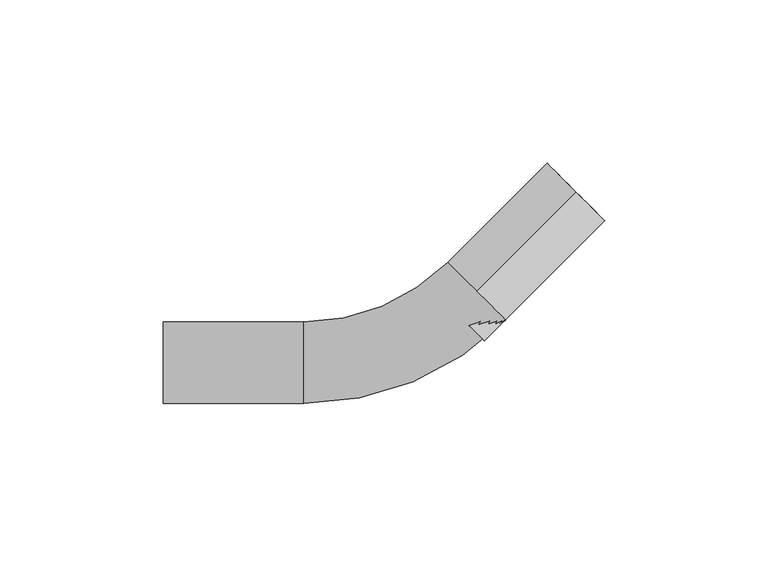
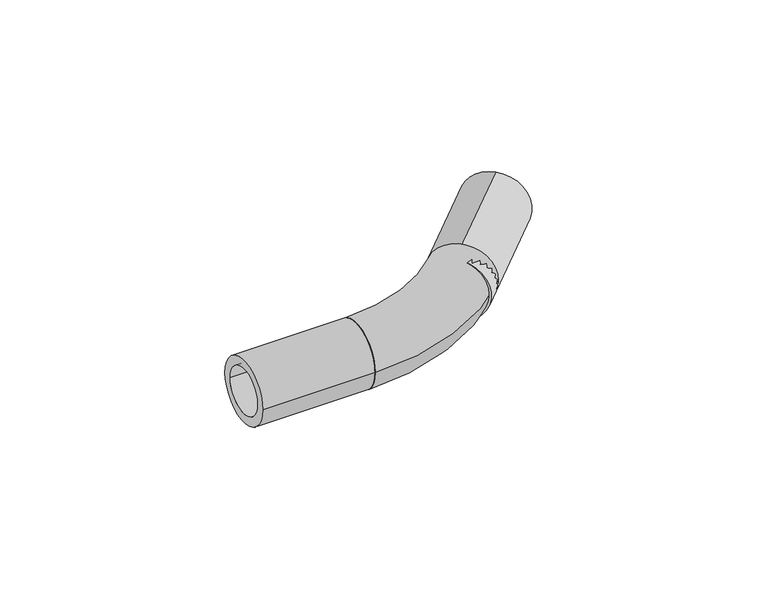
"""IFC4 building model written with IfcOpenShell, lengths in millimetres: pipe fitting geometry, REHAU_RAUTITAN_Pipe bend with former : REHAU_RAUTITAN_Pipe bend with former."""

from ifc_helpers import new_model, si_unit, point, frame, frame_2d, origin, origin_2d, place, context, project, spatial, circle_curve, ellipse_curve, trimmed, segment, composite_curve, outline, extrude, source, transform, mapped, element, save
from ifc_brep_helpers import plane_surface, revolved_surface, advanced_brep


def pipe_fitting_b303c04d(model_context):
    return source(origin(), model_context, "Body", "SolidModel", [
        advanced_brep(
        [(-31.0, -12.5, 0.0), (-31.0, 12.5, 0.0), (-31.0, -9.0, 0.0), (-31.0, 9.0, 0.0), (30.759145, 13.0814755, 0.0), (13.0814755, 30.759145, 0.0), (28.2842712, 15.5563492, 0.0), (15.5563492, 28.2842712, 0.0)],
        [
            (0, 1, circle_curve(frame((-31.0, 0.0, 0.0), z_axis=(-1.0, 0.0, 0.0), x_axis=(0.0, 1.0, 0.0)), 12.5)),
            (1, 0, circle_curve(frame((-31.0, 0.0, 0.0), z_axis=(-1.0, 0.0, 0.0), x_axis=(0.0, 1.0, 0.0)), 12.5)),
            (2, 3, circle_curve(frame((-31.0, 0.0, 0.0), z_axis=(1.0, 0.0, 0.0), x_axis=(0.0, 1.0, 0.0)), 9.0)),
            (3, 2, circle_curve(frame((-31.0, 0.0, 0.0), z_axis=(1.0, 0.0, 0.0), x_axis=(0.0, 1.0, 0.0)), 9.0)),
            (4, 5, circle_curve(frame((21.9203102, 21.9203102, 0.0), z_axis=(0.7071067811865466, 0.7071067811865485, 0.0), x_axis=(-0.7071067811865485, 0.7071067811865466, 0.0)), 12.5)),
            (5, 4, circle_curve(frame((21.9203102, 21.9203102, 0.0), z_axis=(0.7071067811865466, 0.7071067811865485, 0.0), x_axis=(-0.7071067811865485, 0.7071067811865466, 0.0)), 12.5)),
            (6, 7, circle_curve(frame((21.9203102, 21.9203102, 0.0), z_axis=(-0.7071067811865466, -0.7071067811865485, 0.0), x_axis=(-0.7071067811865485, 0.7071067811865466, 0.0)), 9.0)),
            (7, 6, circle_curve(frame((21.9203102, 21.9203102, 0.0), z_axis=(-0.7071067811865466, -0.7071067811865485, 0.0), x_axis=(-0.7071067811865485, 0.7071067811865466, 0.0)), 9.0)),
            (5, 1, circle_curve(frame((-31.0, 74.8406204, 0.0), z_axis=(0.0, 0.0, -1.0), x_axis=(0.0, -1.0, 0.0)), 62.3406204)),
            (0, 4, circle_curve(frame((-31.0, 74.8406204, 0.0), z_axis=(0.0, 0.0, 1.0), x_axis=(0.0, -1.0, 0.0)), 87.3406204)),
            (7, 3, circle_curve(frame((-31.0, 74.8406204, 0.0), z_axis=(0.0, 0.0, -1.0), x_axis=(0.0, -1.0, 0.0)), 65.8406204)),
            (2, 6, circle_curve(frame((-31.0, 74.8406204, 0.0), z_axis=(0.0, 0.0, 1.0), x_axis=(0.0, -1.0, 0.0)), 83.8406204)),
        ],
        [
            plane_surface(frame((-31.0, 0.0, 0.0), z_axis=(-1.0, 0.0, 0.0), x_axis=(0.0, 0.0, 1.0))),
            plane_surface(frame((21.9203102, 21.9203102, 0.0), z_axis=(0.7071067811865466, 0.7071067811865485, 0.0), x_axis=(0.0, 0.0, 1.0))),
            revolved_surface(trimmed(ellipse_curve(frame((-31.0, 0.0, 0.0), z_axis=(-1.0, 0.0, 0.0), x_axis=(0.0, 1.0, 0.0)), 12.5, 12.5), [point((-31.0, -12.5, 0.0))], [point((-31.0, 12.5, 0.0))], True, "CARTESIAN"), (-31.0, 74.8406204, 0.0), (0.0, 0.0, 1.0)),
            revolved_surface(trimmed(ellipse_curve(frame((-31.0, 0.0, 0.0), z_axis=(-1.0, 0.0, 0.0), x_axis=(0.0, 1.0, 0.0)), 12.5, 12.5), [point((-31.0, 12.5, 0.0))], [point((-31.0, -12.5, 0.0))], True, "CARTESIAN"), (-31.0, 74.8406204, 0.0), (0.0, 0.0, 1.0)),
            revolved_surface(trimmed(ellipse_curve(frame((-31.0, 0.0, 0.0), z_axis=(1.0, 0.0, 0.0), x_axis=(0.0, 1.0, 0.0)), 9.0, 9.0), [point((-31.0, -9.0, 0.0))], [point((-31.0, 9.0, 0.0))], True, "CARTESIAN"), (-31.0, 74.8406204, 0.0), (0.0, 0.0, 1.0)),
            revolved_surface(trimmed(ellipse_curve(frame((-31.0, 0.0, 0.0), z_axis=(1.0, 0.0, 0.0), x_axis=(0.0, 1.0, 0.0)), 9.0, 9.0), [point((-31.0, 9.0, 0.0))], [point((-31.0, -9.0, 0.0))], True, "CARTESIAN"), (-31.0, 74.8406204, 0.0), (0.0, 0.0, 1.0)),
        ],
        [
            (0, [[1, 2], [3, 4]]),
            (1, [[5, 6], [7, 8]]),
            (2, [[9, -1, 10, -6]]),
            (3, [[-10, -2, -9, -5]]),
            (4, [[11, -3, 12, -8]]),
            (5, [[-12, -4, -11, -7]]),
        ],
    ),
        extrude(outline(composite_curve([segment(trimmed(circle_curve(origin_2d(), 12.5), [point((12.5, 0.0))], [point((-12.5, 0.0))], False, "CARTESIAN"), True, "CONTINUOUS"), segment(trimmed(circle_curve(origin_2d(), 12.5), [point((-12.5, 0.0))], [point((12.5, 0.0))], False, "CARTESIAN"), True, "CONTINUOUS")], self_intersect=False), holes=[composite_curve([segment(trimmed(circle_curve(origin_2d(), 9.0), [point((9.0, 0.0))], [point((-9.0, 0.0))], True, "CARTESIAN"), True, "CONTINUOUS"), segment(trimmed(circle_curve(origin_2d(), 9.0), [point((-9.0, 0.0))], [point((9.0, 0.0))], True, "CARTESIAN"), True, "CONTINUOUS")], self_intersect=False)]), frame((-74.0, 0.0, 0.0), z_axis=(1.0, 0.0, 0.0), x_axis=(0.0, 1.0, 0.0)), (0.0, 0.0, 1.0), 43.0),
        extrude(outline(composite_curve([segment(trimmed(circle_curve(frame_2d((0.0, -12.5)), 12.5), [point((0.0, -25.0))], [point((0.0, 0.0))], False, "CARTESIAN"), True, "CONTINUOUS"), segment(trimmed(circle_curve(frame_2d((0.0, -12.5)), 12.5), [point((0.0, 0.0))], [point((0.0, -25.0))], False, "CARTESIAN"), True, "CONTINUOUS")], self_intersect=False), holes=[composite_curve([segment(trimmed(circle_curve(frame_2d((0.0, -12.5)), 9.0), [point((0.0, -21.5))], [point((0.0, -3.5))], True, "CARTESIAN"), True, "CONTINUOUS"), segment(trimmed(circle_curve(frame_2d((0.0, -12.5)), 9.0), [point((0.0, -3.5))], [point((0.0, -21.5))], True, "CARTESIAN"), True, "CONTINUOUS")], self_intersect=False)]), frame((15.5, 15.5, 12.5), z_axis=(0.7071067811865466, 0.7071067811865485, 0.0), x_axis=(-0.7071067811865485, 0.7071067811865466, 0.0)), (0.0, 0.0, 1.0), 52.0796898),
    ])


if __name__ == "__main__":
    model = new_model("IFC4")
    model_context = context("Model", 3, world=origin())
    ifc_project = project(units=[si_unit("LENGTHUNIT", "METRE", prefix="MILLI")], contexts=[model_context])
    site = spatial("IfcSite", under=ifc_project)
    building = spatial("IfcBuilding", under=site)
    placement = place(None, origin())
    pipe_fitting_shape = pipe_fitting_b303c04d(model_context)
    element("IfcPipeFitting", 1, ObjectType="REHAU_RAUTITAN_Pipe bend with former : REHAU_RAUTITAN_Pipe bend with former", at=placement, inside=building, context=model_context, shape_type="MappedRepresentation", body=[
        mapped(pipe_fitting_shape, transform((0.0, 0.0, 0.0), x_axis=(1.0, 0.0, 0.0), y_axis=(0.0, 1.0, 0.0), z_axis=(0.0, 0.0, 1.0))),
    ])
    save(model, "model.ifc")
